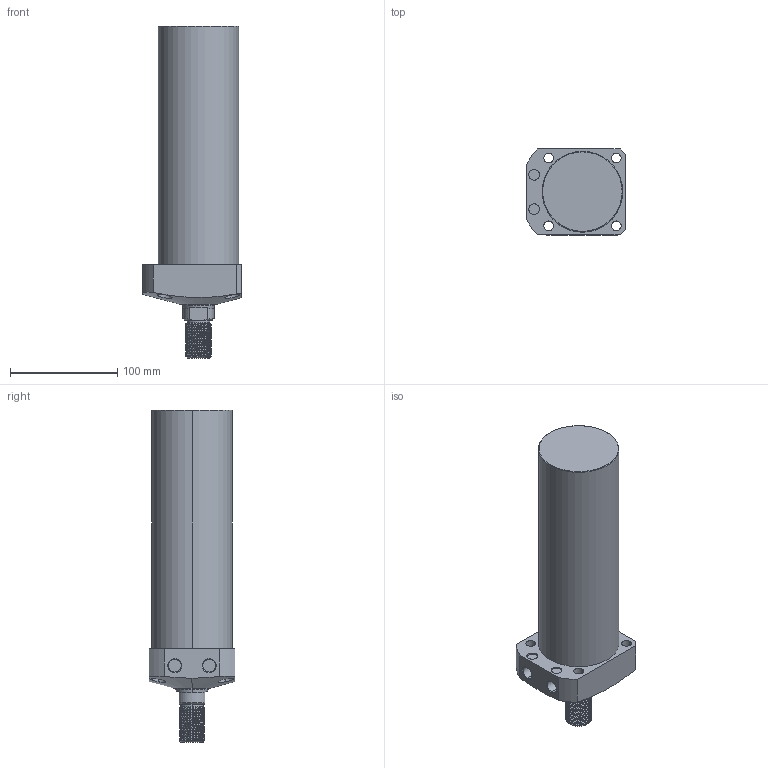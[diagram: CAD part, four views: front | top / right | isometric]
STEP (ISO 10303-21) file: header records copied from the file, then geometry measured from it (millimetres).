
FILE_DESCRIPTION (( 'STEP AP203' ), '1' );
FILE_NAME ('CLL-075CT-185.STEP', '2020-01-08T12:18:28', ( '' ), ( '' ), 'SwSTEP 2.0', 'SolidWorks 2015', '' );
FILE_SCHEMA (( 'CONFIG_CONTROL_DESIGN' ));
Length unit declared in the file: millimetre
Products named in the file (1): CLL-075CT-185
Bounding box: 92 x 80 x 309 mm (x, y, z)
Volume: 1221938 mm3; surface area: 87216.7 mm2
Topology: 1 solids, 1 shells, 121 faces, 310 edges, 202 vertices
Faces by surface type: cylinder 77, plane 23, cone 17, torus 2, bspline 2
Entity records: 6552 total; most frequent: CARTESIAN_POINT 3762, ORIENTED_EDGE 620, DIRECTION 517, EDGE_CURVE 310, AXIS2_PLACEMENT_3D 204, VERTEX_POINT 202, EDGE_LOOP 140, FACE_OUTER_BOUND 121
